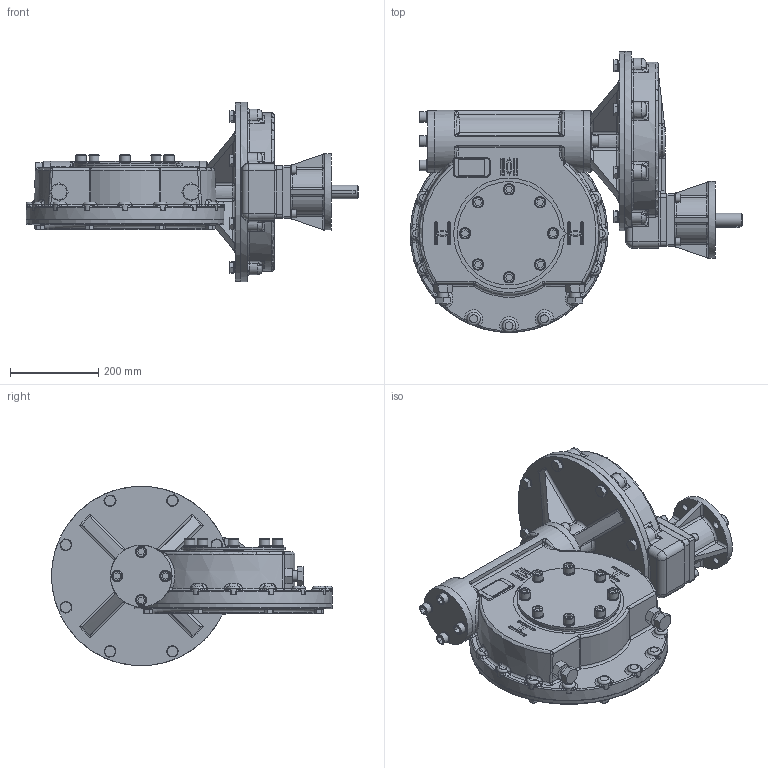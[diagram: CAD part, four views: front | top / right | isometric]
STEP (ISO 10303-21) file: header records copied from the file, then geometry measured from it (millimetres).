
FILE_DESCRIPTION(/* description */ ('Unknown'),/* implementation_level */ '2;1');
FILE_NAME(/* name */ 'PUB-IW72FBIRL-F14-F25',/* time_stamp */ '2016-07-08T15:23:15+01:00',/* author */ ('Unknown'),/* organization */ ('Unknown'),/* preprocessor_version */ 'ST-DEVELOPER v16',/* originating_system */ 'DEX',/* authorisation */ $);
FILE_SCHEMA (('AUTOMOTIVE_DESIGN {1 0 10303 214 3 1 1}'));
Products named in the file (1): PUB-IW72FBIRL-F14-F25
Bounding box: 754.5 x 638.63 x 408 mm (x, y, z)
Surface area: 1435832.3 mm2 (no closed solid volume)
Topology: 0 solids, 96 shells, 2486 faces, 9563 edges, 6837 vertices
Faces by surface type: plane 1499, cylinder 361, bspline 256, cone 167, torus 153, sphere 50
Full cylindrical faces by diameter (mm): 12.5 x8, 13.835 x8, 16.5 x4, 18 x4, 19 x12, 24 x18, 30 x1, 50 x1, 100 x1, 140 x3, 170 x1, 175 x1, 230 x1, 251.5 x1, 408 x1
Entity records: 129054 total; most frequent: CARTESIAN_POINT 55886, ORIENTED_EDGE 13743, DIRECTION 12996, EDGE_CURVE 9290, VERTEX_POINT 6790, LINE 5620, VECTOR 5620, AXIS2_PLACEMENT_3D 3688
